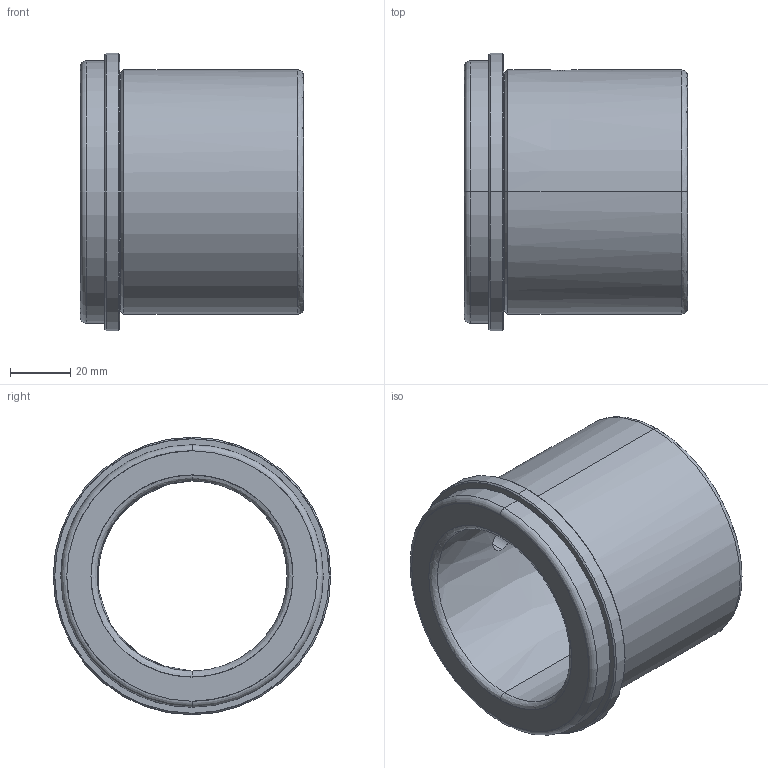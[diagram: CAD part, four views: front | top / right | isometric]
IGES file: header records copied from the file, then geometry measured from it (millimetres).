
Start section: START RECORD GO HERE.
Global section: file name: FAMO-SF1-A63 x 74.igs; native system: DASSAULT SYSTEMES CATIA V5 R20 - www.3ds.com; preprocessor: CATIA Version 5 Release 20 ; author: Utente; organization: NB04-ASUS; date: 20210106.171709; units: millimetre
Bounding box: 74 x 92 x 92 mm (x, y, z)
Surface area: 40730.2 mm2 (no closed solid volume)
Topology: 0 solids, 0 shells, 33 faces, 226 edges, 226 vertices
Faces by surface type: revolution 28, plane 5
